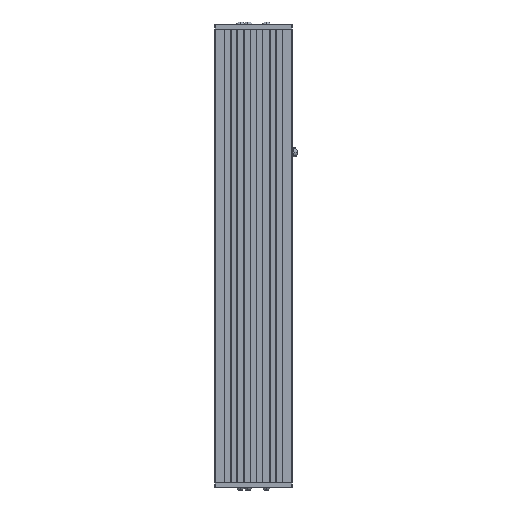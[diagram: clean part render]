
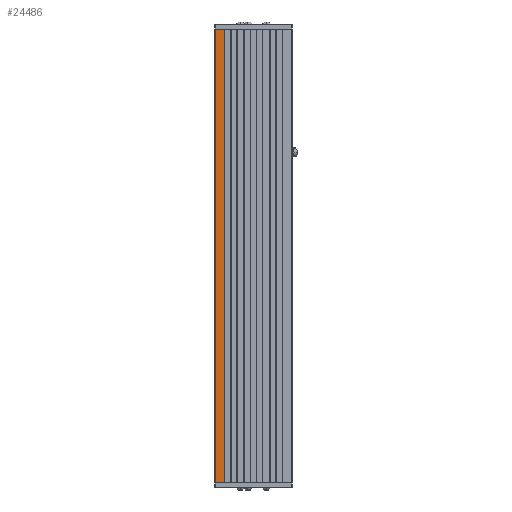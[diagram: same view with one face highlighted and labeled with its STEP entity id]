
A CAD part, front view. The second image highlights one B-rep face of the part: STEP entity #24486.
In plain terms, the highlighted planar face has unit normal (0, -1, 0).
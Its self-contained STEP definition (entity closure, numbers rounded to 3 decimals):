
#795 = EDGE_CURVE ( 'NONE', #24028, #24025, #33728, .T. ) ;
#1129 = EDGE_CURVE ( 'NONE', #24021, #24170, #34322, .T. ) ;
#1233 = EDGE_CURVE ( 'NONE', #24028, #24021, #34496, .T. ) ;
#1235 = EDGE_CURVE ( 'NONE', #24025, #24170, #34501, .T. ) ;
#3143 = CARTESIAN_POINT ( 'NONE',  ( -66.426, -36.746, 0. ) ) ;
#3145 = DIRECTION ( 'NONE',  ( 1., 0., 0. ) ) ;
#3302 = CARTESIAN_POINT ( 'NONE',  ( -64.426, -36.746, 788. ) ) ;
#3303 = DIRECTION ( 'NONE',  ( 0., 0., -1. ) ) ;
#3304 = CARTESIAN_POINT ( 'NONE',  ( -49.926, -36.746, 788. ) ) ;
#3305 = DIRECTION ( 'NONE',  ( 0., 0., -1. ) ) ;
#9416 = EDGE_LOOP ( 'NONE', ( #35842, #35844, #35846, #35848 ) ) ;
#24021 = VERTEX_POINT ( 'NONE', #30397 ) ;
#24025 = VERTEX_POINT ( 'NONE', #30402 ) ;
#24028 = VERTEX_POINT ( 'NONE', #30405 ) ;
#24170 = VERTEX_POINT ( 'NONE', #32727 ) ;
#24486 = ADVANCED_FACE ( 'NONE', ( #32390 ), #33861, .F. ) ;
#30397 = CARTESIAN_POINT ( 'NONE',  ( -64.426, -36.746, 0. ) ) ;
#30402 = CARTESIAN_POINT ( 'NONE',  ( -49.926, -36.746, 788. ) ) ;
#30405 = CARTESIAN_POINT ( 'NONE',  ( -64.426, -36.746, 788. ) ) ;
#30716 = AXIS2_PLACEMENT_3D ( 'NONE', #33863, #33865, #33867 ) ;
#32390 = FACE_OUTER_BOUND ( 'NONE', #9416, .T. ) ;
#32727 = CARTESIAN_POINT ( 'NONE',  ( -49.926, -36.746, 0. ) ) ;
#33728 = LINE ( 'NONE', #37147, #33733 ) ;
#33733 = VECTOR ( 'NONE', #37148, 1000. ) ;
#33861 = PLANE ( 'NONE',  #30716 ) ;
#33863 = CARTESIAN_POINT ( 'NONE',  ( -66.426, -36.746, 788. ) ) ;
#33865 = DIRECTION ( 'NONE',  ( 0., 1., 0. ) ) ;
#33867 = DIRECTION ( 'NONE',  ( 0., 0., 1. ) ) ;
#34322 = LINE ( 'NONE', #3143, #34324 ) ;
#34324 = VECTOR ( 'NONE', #3145, 1000. ) ;
#34496 = LINE ( 'NONE', #3302, #34499 ) ;
#34499 = VECTOR ( 'NONE', #3303, 1000. ) ;
#34501 = LINE ( 'NONE', #3304, #34502 ) ;
#34502 = VECTOR ( 'NONE', #3305, 1000. ) ;
#35842 = ORIENTED_EDGE ( 'NONE', *, *, #795, .F. ) ;
#35844 = ORIENTED_EDGE ( 'NONE', *, *, #1233, .T. ) ;
#35846 = ORIENTED_EDGE ( 'NONE', *, *, #1129, .T. ) ;
#35848 = ORIENTED_EDGE ( 'NONE', *, *, #1235, .F. ) ;
#37147 = CARTESIAN_POINT ( 'NONE',  ( -66.426, -36.746, 788. ) ) ;
#37148 = DIRECTION ( 'NONE',  ( 1., 0., 0. ) ) ;
